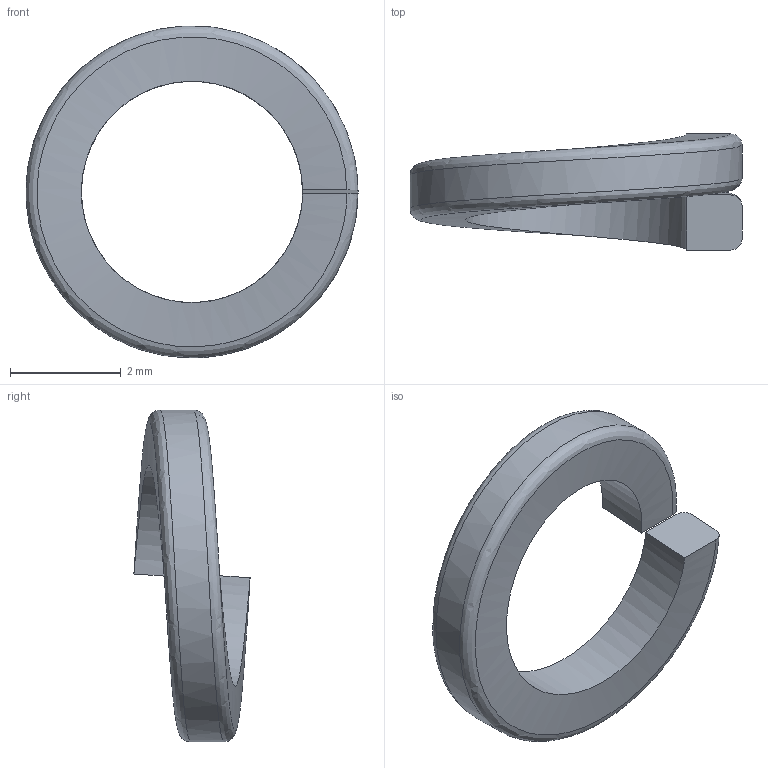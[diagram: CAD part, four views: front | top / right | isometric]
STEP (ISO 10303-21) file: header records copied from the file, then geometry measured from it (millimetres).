
FILE_DESCRIPTION (( 'STEP AP203' ), '1' );
FILE_NAME ('159-CE-SW-4.STEP', '2015-07-09T09:09:34', ( '' ), ( '' ), 'SwSTEP 2.0', 'SolidWorks 2013', '' );
FILE_SCHEMA (( 'CONFIG_CONTROL_DESIGN' ));
Length unit declared in the file: millimetre
Products named in the file (1): 159-CE-SW-4
Bounding box: 5.99 x 2.1 x 5.99 mm (x, y, z)
Volume: 15.4 mm3; surface area: 61.6 mm2
Topology: 1 solids, 1 shells, 8 faces, 18 edges, 12 vertices
Faces by surface type: bspline 6, plane 2
Entity records: 1103 total; most frequent: CARTESIAN_POINT 889, ORIENTED_EDGE 36, EDGE_CURVE 18, DIRECTION 14, VERTEX_POINT 12, LINE 8, FACE_OUTER_BOUND 8, VECTOR 8
